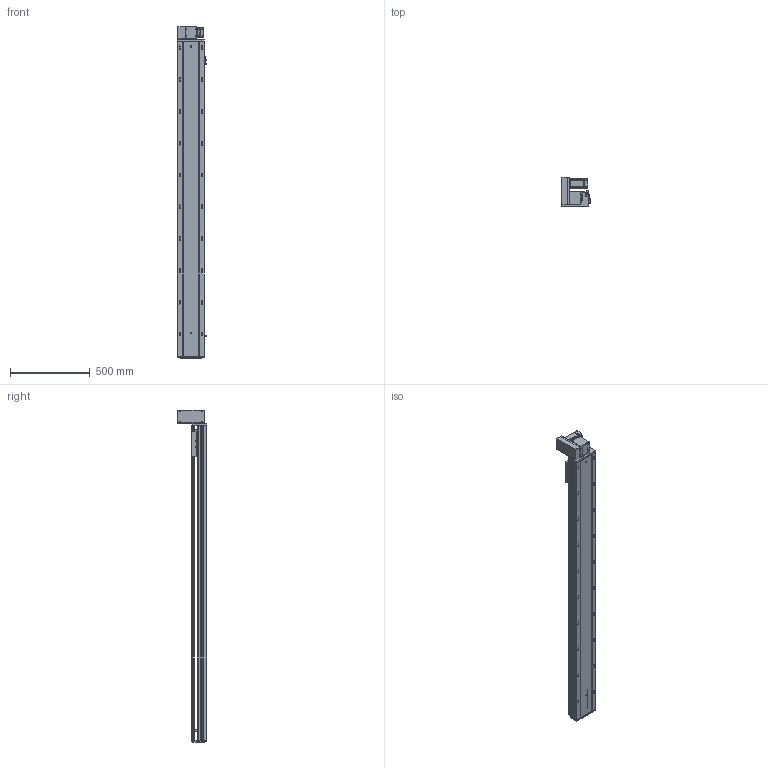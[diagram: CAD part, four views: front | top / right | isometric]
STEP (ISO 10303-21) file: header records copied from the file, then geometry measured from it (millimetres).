
FILE_DESCRIPTION (( 'STEP AP203' ), '1' );
FILE_NAME ('RY170-T-300-UL-P400W.SLDASM_1700.step', '2021-03-02T02:13:53', ( '盈信电脑' ), ( '东莞市道滘镇水果街19号' ), 'SwSTEP 2.0', 'SolidWorks 2012', '' );
FILE_SCHEMA (( 'CONFIG_CONTROL_DESIGN' ));
Length unit declared in the file: millimetre
Products named in the file (18): RY170綴裔啣; RY170-T-300-UL-P400W.SLDASM_1700; RY170肮祭謫萇儂欶; RY170同步轮电机安装板(400W); 15; RY170-T蹟翐M4; 滅袉蝶18-10; RY170-T肮祭謫裔啣; RY120-T主同步轮轴承压盖; RY170-T肮祭湍揤踡輸2; RY170外置感应片(200共用）; RY170肮祭謫ヶ裔啣; RY170翋肮祭謫釱; RY170-T肮祭湍揤踡輸1; 覜茼ん672; RY170肮祭湍臏賑輸; RY170-T-300肮祭謫倰第裔啣-DL_1700; RY170-T-300肮祭謫倰第菁釱-DL_1700
Assembly tree (20 placements, depth 2):
  RY170-T-300-UL-P400W.SLDASM_1700
    RY170-T-300肮祭謫倰第菁釱-DL_1700
    RY170肮祭湍臏賑輸
    RY170-T-300肮祭謫倰第裔啣-DL_1700
    RY170綴裔啣
    覜茼ん672  x3
    RY170外置感应片(200共用）
    RY170肮祭謫ヶ裔啣
    RY170翋肮祭謫釱
    RY170-T肮祭湍揤踡輸1
    RY170-T肮祭湍揤踡輸2
    RY170-T肮祭謫裔啣
    滅袉蝶18-10  x2
    RY120-T主同步轮轴承压盖
    RY170肮祭謫萇儂欶
    RY170同步轮电机安装板(400W)
    RY170-T蹟翐M4
    15
Bounding box: 183.7 x 184 x 2088 mm (x, y, z)
Volume: 9800323.8 mm3; surface area: 3355201.8 mm2
Topology: 20 solids, 20 shells, 2737 faces, 7670 edges, 4885 vertices
Faces by surface type: cylinder 1272, plane 1151, cone 284, bspline 30
Entity records: 87832 total; most frequent: CARTESIAN_POINT 20015, ORIENTED_EDGE 13888, DIRECTION 13600, EDGE_CURVE 6944, AXIS2_PLACEMENT_3D 4812, VERTEX_POINT 4553, VECTOR 3976, LINE 3976
